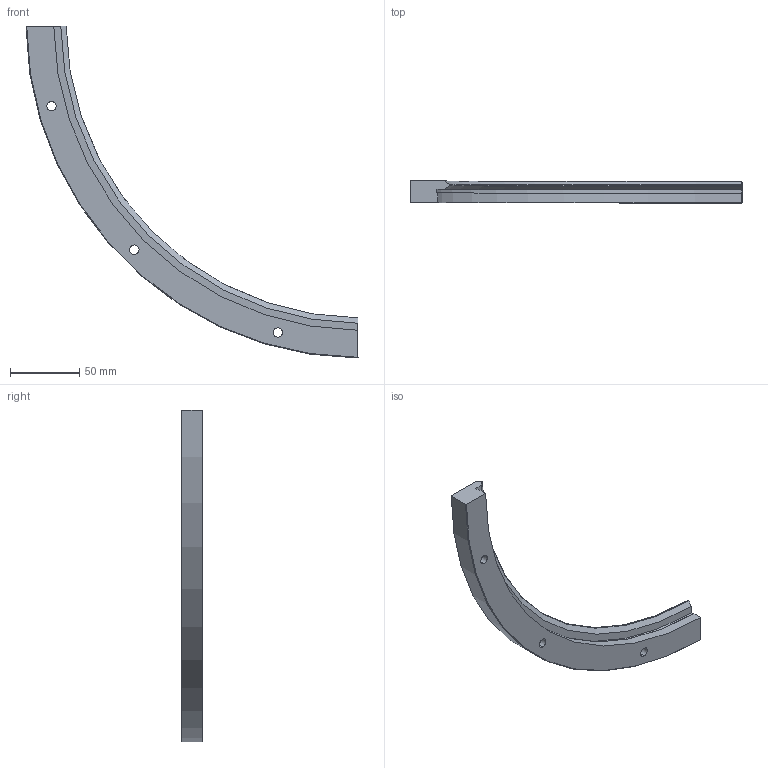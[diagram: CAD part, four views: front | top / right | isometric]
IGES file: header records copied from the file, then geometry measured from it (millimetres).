
Start section: 3D InterOp IGES (v. 2020 1.0.1), Spatial Corp. Copyright (c) 1999-2017.
Global section: file name: rim_482_r90.igs; native system: Spatial Corp.; preprocessor: 3D InterOp ACIS/IGES; author: TraceParts; organization: TraceParts S.A.; date: 20220624.062659; units: millimetre
Bounding box: 239.24 x 15.5 x 239.24 mm (x, y, z)
Surface area: 32113.5 mm2 (no closed solid volume)
Topology: 0 solids, 0 shells, 30 faces, 150 edges, 150 vertices
Faces by surface type: revolution 21, extrusion 9
